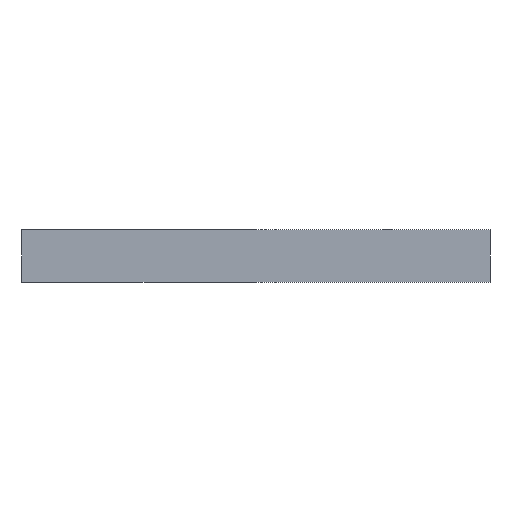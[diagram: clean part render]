
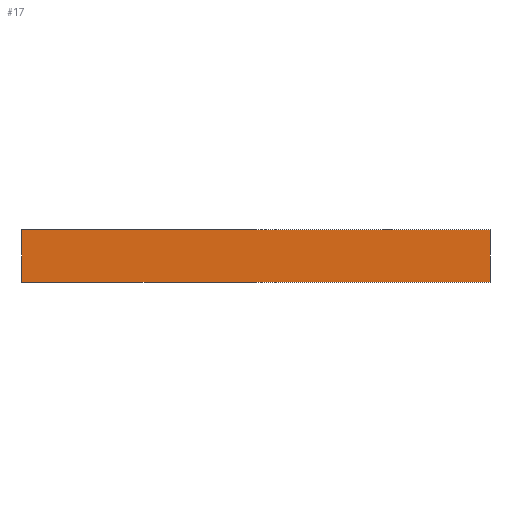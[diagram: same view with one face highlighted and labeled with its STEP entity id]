
A CAD part, left-side view. The second image highlights one B-rep face of the part: STEP entity #17.
In plain terms, the highlighted planar face has unit normal (-1, 0, 0).
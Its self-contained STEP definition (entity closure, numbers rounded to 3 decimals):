
#17 = ADVANCED_FACE('',(#18),#32,.F.);
#18 = FACE_BOUND('',#19,.F.);
#19 = EDGE_LOOP('',(#20,#55,#83,#111));
#20 = ORIENTED_EDGE('',*,*,#21,.F.);
#21 = EDGE_CURVE('',#22,#24,#26,.T.);
#22 = VERTEX_POINT('',#23);
#23 = CARTESIAN_POINT('',(0.,0.,0.));
#24 = VERTEX_POINT('',#25);
#25 = CARTESIAN_POINT('',(0.,0.,18.));
#26 = SURFACE_CURVE('',#27,(#31,#43),.PCURVE_S1.);
#27 = LINE('',#28,#29);
#28 = CARTESIAN_POINT('',(0.,0.,0.));
#29 = VECTOR('',#30,1.);
#30 = DIRECTION('',(0.,0.,1.));
#31 = PCURVE('',#32,#37);
#32 = PLANE('',#33);
#33 = AXIS2_PLACEMENT_3D('',#34,#35,#36);
#34 = CARTESIAN_POINT('',(0.,0.,0.));
#35 = DIRECTION('',(1.,0.,0.));
#36 = DIRECTION('',(0.,0.,1.));
#37 = DEFINITIONAL_REPRESENTATION('',(#38),#42);
#38 = LINE('',#39,#40);
#39 = CARTESIAN_POINT('',(0.,0.));
#40 = VECTOR('',#41,1.);
#41 = DIRECTION('',(1.,0.));
#42 = ( GEOMETRIC_REPRESENTATION_CONTEXT(2) 
PARAMETRIC_REPRESENTATION_CONTEXT() REPRESENTATION_CONTEXT('2D SPACE',''
  ) );
#43 = PCURVE('',#44,#49);
#44 = PLANE('',#45);
#45 = AXIS2_PLACEMENT_3D('',#46,#47,#48);
#46 = CARTESIAN_POINT('',(0.,0.,0.));
#47 = DIRECTION('',(0.,1.,0.));
#48 = DIRECTION('',(0.,0.,1.));
#49 = DEFINITIONAL_REPRESENTATION('',(#50),#54);
#50 = LINE('',#51,#52);
#51 = CARTESIAN_POINT('',(0.,0.));
#52 = VECTOR('',#53,1.);
#53 = DIRECTION('',(1.,0.));
#54 = ( GEOMETRIC_REPRESENTATION_CONTEXT(2) 
PARAMETRIC_REPRESENTATION_CONTEXT() REPRESENTATION_CONTEXT('2D SPACE',''
  ) );
#55 = ORIENTED_EDGE('',*,*,#56,.T.);
#56 = EDGE_CURVE('',#22,#57,#59,.T.);
#57 = VERTEX_POINT('',#58);
#58 = CARTESIAN_POINT('',(0.,160.,0.));
#59 = SURFACE_CURVE('',#60,(#64,#71),.PCURVE_S1.);
#60 = LINE('',#61,#62);
#61 = CARTESIAN_POINT('',(0.,0.,0.));
#62 = VECTOR('',#63,1.);
#63 = DIRECTION('',(0.,1.,0.));
#64 = PCURVE('',#32,#65);
#65 = DEFINITIONAL_REPRESENTATION('',(#66),#70);
#66 = LINE('',#67,#68);
#67 = CARTESIAN_POINT('',(0.,0.));
#68 = VECTOR('',#69,1.);
#69 = DIRECTION('',(0.,-1.));
#70 = ( GEOMETRIC_REPRESENTATION_CONTEXT(2) 
PARAMETRIC_REPRESENTATION_CONTEXT() REPRESENTATION_CONTEXT('2D SPACE',''
  ) );
#71 = PCURVE('',#72,#77);
#72 = PLANE('',#73);
#73 = AXIS2_PLACEMENT_3D('',#74,#75,#76);
#74 = CARTESIAN_POINT('',(0.,0.,0.));
#75 = DIRECTION('',(0.,0.,1.));
#76 = DIRECTION('',(1.,0.,0.));
#77 = DEFINITIONAL_REPRESENTATION('',(#78),#82);
#78 = LINE('',#79,#80);
#79 = CARTESIAN_POINT('',(0.,0.));
#80 = VECTOR('',#81,1.);
#81 = DIRECTION('',(0.,1.));
#82 = ( GEOMETRIC_REPRESENTATION_CONTEXT(2) 
PARAMETRIC_REPRESENTATION_CONTEXT() REPRESENTATION_CONTEXT('2D SPACE',''
  ) );
#83 = ORIENTED_EDGE('',*,*,#84,.T.);
#84 = EDGE_CURVE('',#57,#85,#87,.T.);
#85 = VERTEX_POINT('',#86);
#86 = CARTESIAN_POINT('',(0.,160.,18.));
#87 = SURFACE_CURVE('',#88,(#92,#99),.PCURVE_S1.);
#88 = LINE('',#89,#90);
#89 = CARTESIAN_POINT('',(0.,160.,0.));
#90 = VECTOR('',#91,1.);
#91 = DIRECTION('',(0.,0.,1.));
#92 = PCURVE('',#32,#93);
#93 = DEFINITIONAL_REPRESENTATION('',(#94),#98);
#94 = LINE('',#95,#96);
#95 = CARTESIAN_POINT('',(0.,-160.));
#96 = VECTOR('',#97,1.);
#97 = DIRECTION('',(1.,0.));
#98 = ( GEOMETRIC_REPRESENTATION_CONTEXT(2) 
PARAMETRIC_REPRESENTATION_CONTEXT() REPRESENTATION_CONTEXT('2D SPACE',''
  ) );
#99 = PCURVE('',#100,#105);
#100 = PLANE('',#101);
#101 = AXIS2_PLACEMENT_3D('',#102,#103,#104);
#102 = CARTESIAN_POINT('',(0.,160.,0.));
#103 = DIRECTION('',(0.,1.,0.));
#104 = DIRECTION('',(0.,0.,1.));
#105 = DEFINITIONAL_REPRESENTATION('',(#106),#110);
#106 = LINE('',#107,#108);
#107 = CARTESIAN_POINT('',(0.,0.));
#108 = VECTOR('',#109,1.);
#109 = DIRECTION('',(1.,0.));
#110 = ( GEOMETRIC_REPRESENTATION_CONTEXT(2) 
PARAMETRIC_REPRESENTATION_CONTEXT() REPRESENTATION_CONTEXT('2D SPACE',''
  ) );
#111 = ORIENTED_EDGE('',*,*,#112,.F.);
#112 = EDGE_CURVE('',#24,#85,#113,.T.);
#113 = SURFACE_CURVE('',#114,(#118,#125),.PCURVE_S1.);
#114 = LINE('',#115,#116);
#115 = CARTESIAN_POINT('',(0.,0.,18.));
#116 = VECTOR('',#117,1.);
#117 = DIRECTION('',(0.,1.,0.));
#118 = PCURVE('',#32,#119);
#119 = DEFINITIONAL_REPRESENTATION('',(#120),#124);
#120 = LINE('',#121,#122);
#121 = CARTESIAN_POINT('',(18.,0.));
#122 = VECTOR('',#123,1.);
#123 = DIRECTION('',(0.,-1.));
#124 = ( GEOMETRIC_REPRESENTATION_CONTEXT(2) 
PARAMETRIC_REPRESENTATION_CONTEXT() REPRESENTATION_CONTEXT('2D SPACE',''
  ) );
#125 = PCURVE('',#126,#131);
#126 = PLANE('',#127);
#127 = AXIS2_PLACEMENT_3D('',#128,#129,#130);
#128 = CARTESIAN_POINT('',(0.,0.,18.));
#129 = DIRECTION('',(0.,0.,1.));
#130 = DIRECTION('',(1.,0.,0.));
#131 = DEFINITIONAL_REPRESENTATION('',(#132),#136);
#132 = LINE('',#133,#134);
#133 = CARTESIAN_POINT('',(0.,0.));
#134 = VECTOR('',#135,1.);
#135 = DIRECTION('',(0.,1.));
#136 = ( GEOMETRIC_REPRESENTATION_CONTEXT(2) 
PARAMETRIC_REPRESENTATION_CONTEXT() REPRESENTATION_CONTEXT('2D SPACE',''
  ) );
